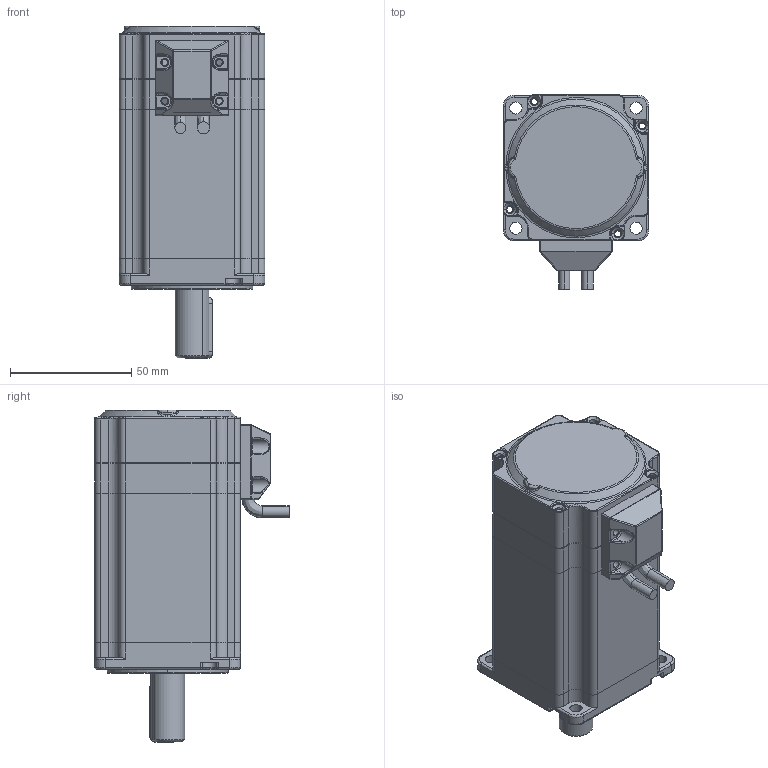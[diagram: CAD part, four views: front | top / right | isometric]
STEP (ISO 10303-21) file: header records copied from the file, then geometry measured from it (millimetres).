
FILE_DESCRIPTION (( 'STEP AP203' ), '1' );
FILE_NAME ('60CME30X-I14-M17.STEP', '2023-07-19T06:23:01', ( 'Owner' ), ( 'Organization' ), 'SwSTEP 2.0', 'SolidWorks 2018', '' );
FILE_SCHEMA (( 'CONFIG_CONTROL_DESIGN' ));
Length unit declared in the file: millimetre
Products named in the file (8): 60H61.5; 揤輸; 16-021; 5X5X25长方键 2头圆_长方键; 11-686ㄗ14粣ㄘ; 16-638; 16-603-6; 60CME30X-I14-M17
Assembly tree (7 placements, depth 2):
  60CME30X-I14-M17
    60H61.5
    16-638
    16-603-6
    11-686ㄗ14粣ㄘ
    16-021
    揤輸
    5X5X25长方键 2头圆_长方键
Bounding box: 60 x 80 x 136.8 mm (x, y, z)
Volume: 178673.8 mm3; surface area: 82155 mm2
Topology: 8 solids, 8 shells, 956 faces, 2442 edges, 1449 vertices
Faces by surface type: cylinder 379, bspline 297, plane 231, cone 49
Entity records: 36561 total; most frequent: CARTESIAN_POINT 14279, ORIENTED_EDGE 4788, DIRECTION 4224, EDGE_CURVE 2394, AXIS2_PLACEMENT_3D 1621, VERTEX_POINT 1449, EDGE_LOOP 1021, LINE 982
